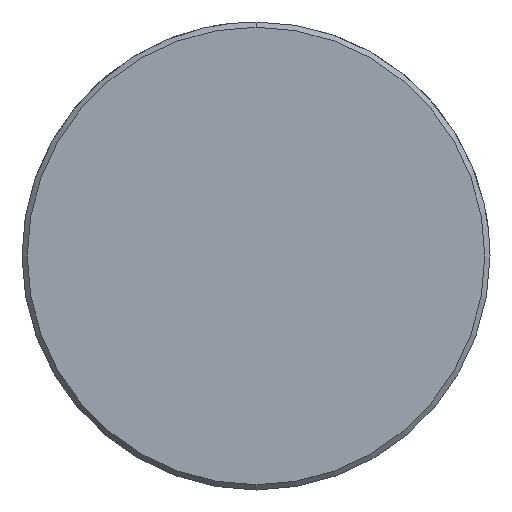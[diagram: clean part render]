
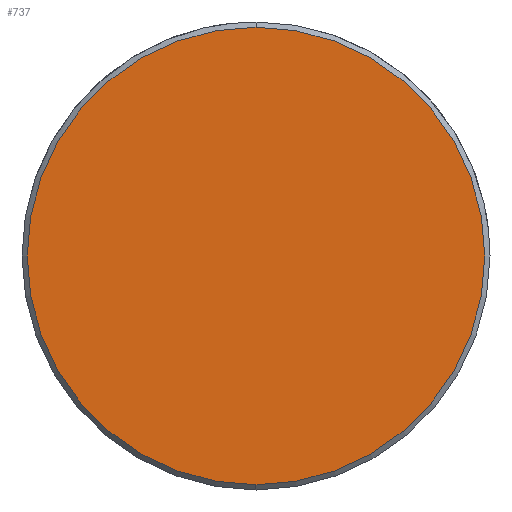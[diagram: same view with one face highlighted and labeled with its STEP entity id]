
A CAD part, left-side view. The second image highlights one B-rep face of the part: STEP entity #737.
In plain terms, the highlighted planar face has unit normal (-1, 0, 0).
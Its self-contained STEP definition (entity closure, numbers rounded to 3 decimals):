
#669=CARTESIAN_POINT('Vertex',(0.,0.,-13.2)) ;
#672=CARTESIAN_POINT('Axis2P3D Location',(0.,0.,0.)) ;
#676=CARTESIAN_POINT('Vertex',(0.,13.2,0.)) ;
#679=CARTESIAN_POINT('Axis2P3D Location',(0.,0.,0.)) ;
#683=CARTESIAN_POINT('Vertex',(0.,0.,13.2)) ;
#705=CARTESIAN_POINT('Axis2P3D Location',(0.,0.,0.)) ;
#709=CARTESIAN_POINT('Vertex',(0.,-13.2,0.)) ;
#712=CARTESIAN_POINT('Axis2P3D Location',(0.,0.,0.)) ;
#726=CARTESIAN_POINT('Axis2P3D Location',(0.,0.,0.)) ;
#673=DIRECTION('Axis2P3D Direction',(1.,0.,-0.)) ;
#680=DIRECTION('Axis2P3D Direction',(1.,0.,-0.)) ;
#706=DIRECTION('Axis2P3D Direction',(1.,0.,-0.)) ;
#713=DIRECTION('Axis2P3D Direction',(1.,0.,-0.)) ;
#727=DIRECTION('Axis2P3D Direction',(1.,0.,-0.)) ;
#728=DIRECTION('Axis2P3D XDirection',(-0.,0.,-1.)) ;
#674=AXIS2_PLACEMENT_3D('Circle Axis2P3D',#672,#673,$) ;
#681=AXIS2_PLACEMENT_3D('Circle Axis2P3D',#679,#680,$) ;
#707=AXIS2_PLACEMENT_3D('Circle Axis2P3D',#705,#706,$) ;
#714=AXIS2_PLACEMENT_3D('Circle Axis2P3D',#712,#713,$) ;
#729=AXIS2_PLACEMENT_3D('Plane Axis2P3D',#726,#727,#728) ;
#732=ORIENTED_EDGE('',*,*,#678,.F.) ;
#733=ORIENTED_EDGE('',*,*,#716,.F.) ;
#734=ORIENTED_EDGE('',*,*,#711,.F.) ;
#735=ORIENTED_EDGE('',*,*,#685,.F.) ;
#737=ADVANCED_FACE('549-24X140',(#736),#730,.F.) ;
#675=CIRCLE('generated circle',#674,13.2) ;
#682=CIRCLE('generated circle',#681,13.2) ;
#708=CIRCLE('generated circle',#707,13.2) ;
#715=CIRCLE('generated circle',#714,13.2) ;
#678=EDGE_CURVE('',#670,#677,#675,.T.) ;
#685=EDGE_CURVE('',#677,#684,#682,.T.) ;
#711=EDGE_CURVE('',#684,#710,#708,.T.) ;
#716=EDGE_CURVE('',#710,#670,#715,.T.) ;
#731=EDGE_LOOP('',(#732,#733,#734,#735)) ;
#736=FACE_OUTER_BOUND('',#731,.T.) ;
#730=PLANE('Plane',#729) ;
#670=VERTEX_POINT('',#669) ;
#677=VERTEX_POINT('',#676) ;
#684=VERTEX_POINT('',#683) ;
#710=VERTEX_POINT('',#709) ;
